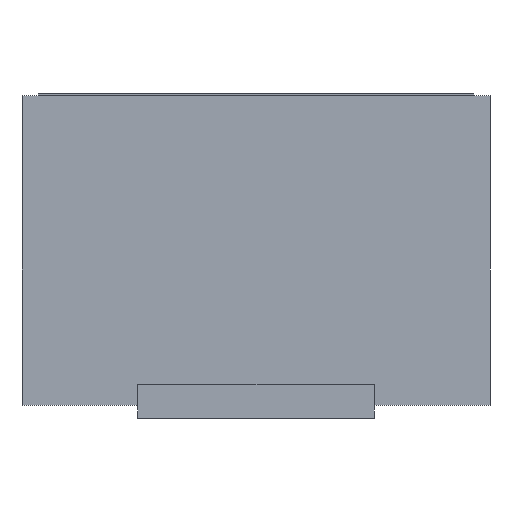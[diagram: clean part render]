
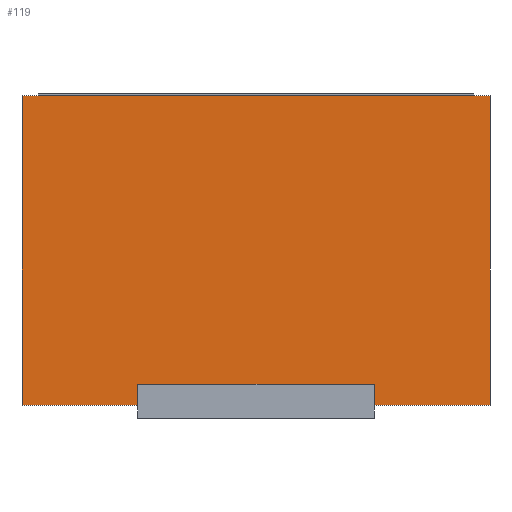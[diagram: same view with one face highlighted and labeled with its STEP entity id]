
A CAD part, left-side view. The second image highlights one B-rep face of the part: STEP entity #119.
In plain terms, the highlighted planar face has unit normal (-1, 0, 0).
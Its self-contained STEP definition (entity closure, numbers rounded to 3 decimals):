
#21 = EDGE_CURVE('',#22,#24,#26,.T.);
#22 = VERTEX_POINT('',#23);
#23 = CARTESIAN_POINT('',(-2.3,-1.8,0.12));
#24 = VERTEX_POINT('',#25);
#25 = CARTESIAN_POINT('',(-2.3,-1.8,2.5));
#26 = LINE('',#27,#28);
#27 = CARTESIAN_POINT('',(-2.3,-1.8,0.12));
#28 = VECTOR('',#29,1.);
#29 = DIRECTION('',(0.,0.,1.));
#94 = VERTEX_POINT('',#95);
#95 = CARTESIAN_POINT('',(-2.3,1.8,2.5));
#101 = EDGE_CURVE('',#102,#94,#104,.T.);
#102 = VERTEX_POINT('',#103);
#103 = CARTESIAN_POINT('',(-2.3,1.8,0.12));
#104 = LINE('',#105,#106);
#105 = CARTESIAN_POINT('',(-2.3,1.8,0.12));
#106 = VECTOR('',#107,1.);
#107 = DIRECTION('',(0.,0.,1.));
#119 = ADVANCED_FACE('',(#120),#136,.F.);
#120 = FACE_BOUND('',#121,.F.);
#121 = EDGE_LOOP('',(#122,#123,#129,#130));
#122 = ORIENTED_EDGE('',*,*,#101,.T.);
#123 = ORIENTED_EDGE('',*,*,#124,.T.);
#124 = EDGE_CURVE('',#94,#24,#125,.T.);
#125 = LINE('',#126,#127);
#126 = CARTESIAN_POINT('',(-2.3,1.8,2.5));
#127 = VECTOR('',#128,1.);
#128 = DIRECTION('',(0.,-1.,0.));
#129 = ORIENTED_EDGE('',*,*,#21,.F.);
#130 = ORIENTED_EDGE('',*,*,#131,.F.);
#131 = EDGE_CURVE('',#102,#22,#132,.T.);
#132 = LINE('',#133,#134);
#133 = CARTESIAN_POINT('',(-2.3,1.8,0.12));
#134 = VECTOR('',#135,1.);
#135 = DIRECTION('',(0.,-1.,0.));
#136 = PLANE('',#137);
#137 = AXIS2_PLACEMENT_3D('',#138,#139,#140);
#138 = CARTESIAN_POINT('',(-2.3,1.8,0.12));
#139 = DIRECTION('',(1.,0.,-0.));
#140 = DIRECTION('',(0.,-1.,0.));
